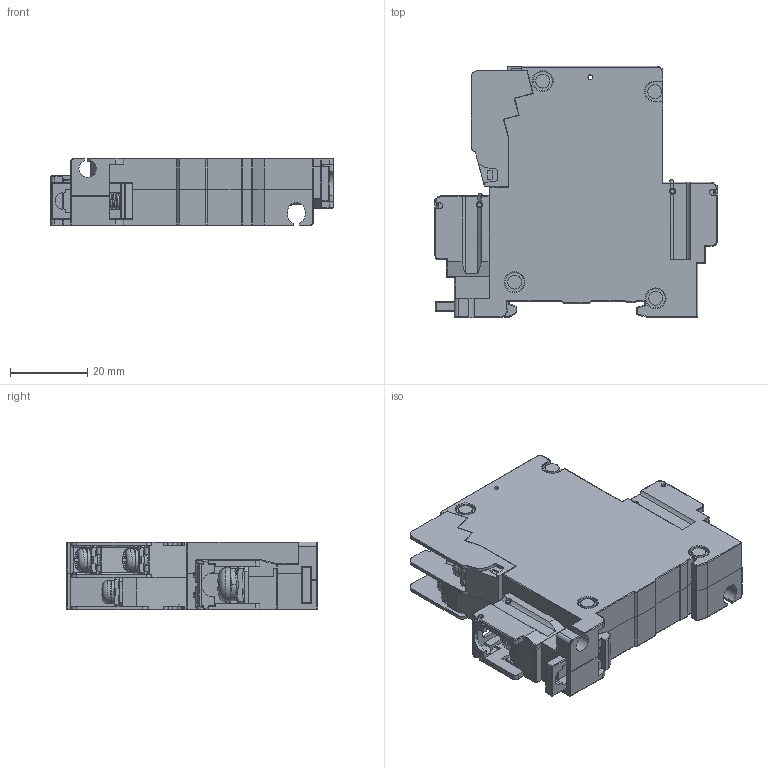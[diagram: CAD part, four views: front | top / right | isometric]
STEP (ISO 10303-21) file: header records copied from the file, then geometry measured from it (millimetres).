
FILE_DESCRIPTION (( 'STEP AP203' ), '1' );
FILE_NAME ('Total Ass''y(Aux Type)(1P).STEP', '2018-11-29T02:17:55', ( '' ), ( '' ), 'SwSTEP 2.0', 'SolidWorks 2015', '' );
FILE_SCHEMA (( 'CONFIG_CONTROL_DESIGN' ));
Length unit declared in the file: millimetre
Products named in the file (24): Din Rail Ass''y(CP30DN 4005); Cover(CP30DN6002); Load Terminal(CP30DN5005); Handle(CP30DN6004); Base Rivet(1P)(CP30DN7602); Self Up Screw(M3.5)(CP30DN 7303); Aux Body(CP30DN6013); Aux Handle(1P)(CP30DN6007); Total Ass''y(Aux Type)(1P); 餌陝 Washer(M5); Aux Body Ass''y(E)(CP30DN4008); Terminal Cover(1P)(CP30DN 6010); Self Up Screw(M5)(CP30DN 7305); Din Rail Spring(CP30DN8001); 餌陝 Washer(M3.5); Din Rail(CP30DN6006); Wave Washer(M5); PH Swrew(M3.5X8); Aux Terminal(CP30DN5006); Line Terminal Ass''y(CP30DN4001); Wave Washer(M3.5); Line Terminal(CP30DN5004); Base(CP30DN6001); PH Swrew(M5X10)
Assembly tree (32 placements, depth 4):
  Total Ass''y(Aux Type)(1P)
    Base(CP30DN6001)
    Cover(CP30DN6002)
    Handle(CP30DN6004)
    Line Terminal Ass''y(CP30DN4001)
      Line Terminal(CP30DN5004)
    Load Terminal(CP30DN5005)
    Self Up Screw(M5)(CP30DN 7305)  x2
      PH Swrew(M5X10)
      餌陝 Washer(M5)
      Wave Washer(M5)
    Aux Handle(1P)(CP30DN6007)
    Base Rivet(1P)(CP30DN7602)  x4
    Aux Body Ass''y(E)(CP30DN4008)
      Aux Body(CP30DN6013)
      Aux Terminal(CP30DN5006)  x3
      Self Up Screw(M3.5)(CP30DN 7303)  x3
        PH Swrew(M3.5X8)
        餌陝 Washer(M3.5)
        Wave Washer(M3.5)
    Terminal Cover(1P)(CP30DN 6010)  x2
    Din Rail Ass''y(CP30DN 4005)
      Din Rail(CP30DN6006)
      Din Rail Spring(CP30DN8001)
Bounding box: 73.4 x 65.05 x 17.5 mm (x, y, z)
Volume: 23242.4 mm3; surface area: 38458.8 mm2
Topology: 33 solids, 33 shells, 2914 faces, 7959 edges, 5077 vertices
Faces by surface type: plane 1800, cylinder 789, torus 130, cone 83, sphere 78, bspline 34
Entity records: 83401 total; most frequent: CARTESIAN_POINT 19740, ORIENTED_EDGE 13066, DIRECTION 12368, EDGE_CURVE 6533, LINE 4748, VECTOR 4748, VERTEX_POINT 4178, AXIS2_PLACEMENT_3D 3810
